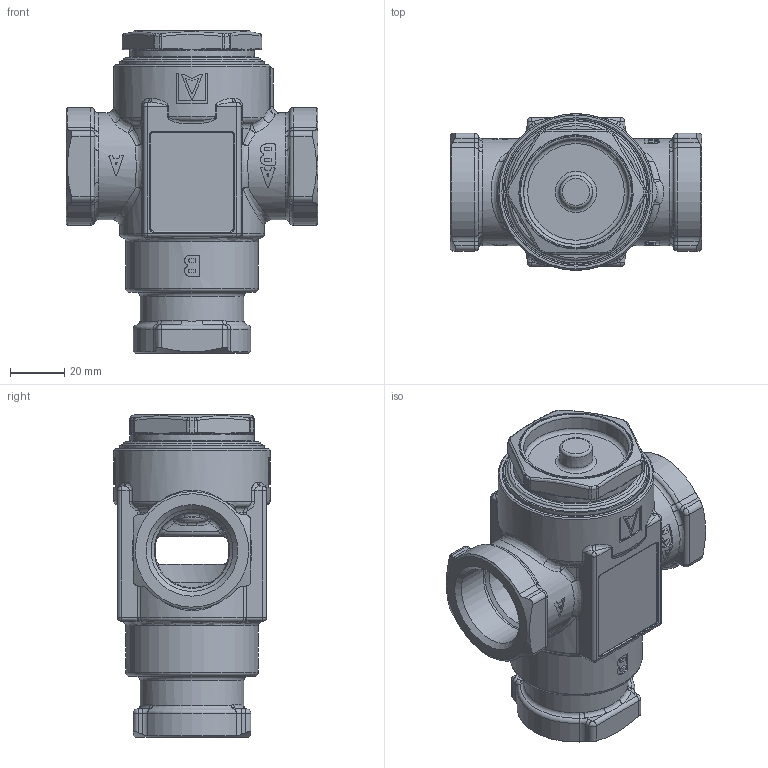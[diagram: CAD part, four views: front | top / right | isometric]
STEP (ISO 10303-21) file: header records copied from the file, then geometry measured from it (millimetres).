
FILE_DESCRIPTION(/* description */ ('Unknown'),/* implementation_level */ '2;1');
FILE_NAME(/* name */ 'D071012G',/* time_stamp */ '2022-01-25T09:17:15+01:00',/* author */ ('Unknown'),/* organization */ ('Unknown'),/* preprocessor_version */ 'ST-DEVELOPER v16.7',/* originating_system */ 'DEX',/* authorisation */ $);
FILE_SCHEMA (('AP203_CONFIGURATION_CONTROLLED_3D_DESIGN_OF_MECHANICAL_PARTS_AND_ASSEMBLIES_MIM_LF { 1 0 10303 203 3 1 4 }','AUTOMOTIVE_DESIGN {1 0 10303 214 3 1 1}'));
Length unit declared in the file: millimetre
Products named in the file (4): D071012G.PP-AF; 41269; 77043_oa_0; 41279
Assembly tree (3 placements, depth 2):
  D071012G.PP-AF
    41269
    77043_oa_0
    41279
Bounding box: 93 x 57.8 x 119.1 mm (x, y, z)
Volume: 115083.1 mm3; surface area: 58913.6 mm2
Topology: 3 solids, 3 shells, 877 faces, 2169 edges, 1306 vertices
Faces by surface type: cylinder 305, bspline 198, plane 190, torus 119, cone 48, sphere 17
Full cylindrical faces by diameter (mm): 5.5 x1, 30.291 x6, 32.4 x1, 35.8 x3, 38.4 x1, 39.2 x1, 39.5 x2, 41.4 x1, 44 x1, 44.3 x1, 45.3 x1, 46 x1, 47.4 x1, 47.5 x1, 49 x1, 49.5 x1, 52 x1, 53.6 x1, 53.8 x1
Entity records: 34841 total; most frequent: CARTESIAN_POINT 11523, ORIENTED_EDGE 4078, DIRECTION 3335, EDGE_CURVE 2039, AXIS2_PLACEMENT_3D 1400, VERTEX_POINT 1284, FACE_BOUND 999, EDGE_LOOP 998
